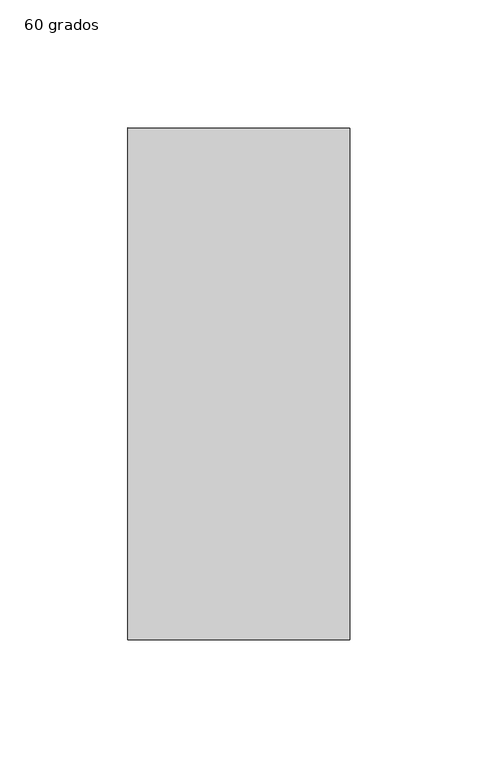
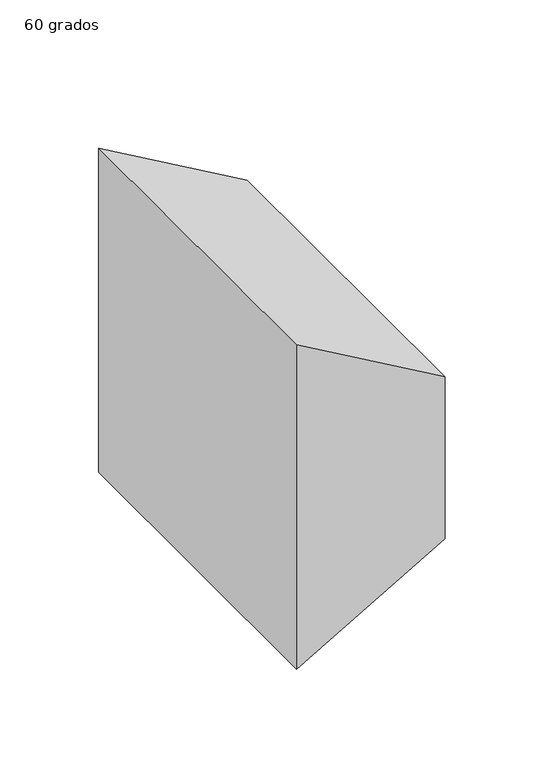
"""IFC4 building model written with IfcOpenShell, lengths in millimetres: duct fitting geometry, M_Transición rectangular - Ángulo : 60 grados."""

from ifc_helpers import new_model, si_unit, frame, origin, place, context, project, spatial, polyline, outline, extrude, source, transform, mapped, element, save


def duct_fitting_60_grados_5e89b3a4(model_context):
    return source(origin(), model_context, "Body", "SweptSolid", [
        extrude(outline(polyline([(100.0, 0.0), (-100.0, 0.0), (-50.0, 86.6025404), (50.0, 86.6025404), (100.0, 0.0)])), frame((0.0, -100.0, 0.0), z_axis=(0.0, 1.0, 0.0), x_axis=(0.0, 0.0, 1.0)), (0.0, 0.0, 1.0), 200.0),
    ])


if __name__ == "__main__":
    model = new_model("IFC4")
    model_context = context("Model", 3, world=origin())
    ifc_project = project(units=[si_unit("LENGTHUNIT", "METRE", prefix="MILLI")], contexts=[model_context])
    site = spatial("IfcSite", under=ifc_project)
    building = spatial("IfcBuilding", under=site)
    placement = place(None, origin())
    duct_fitting_60_grados_shape = duct_fitting_60_grados_5e89b3a4(model_context)
    element("IfcDuctFitting", 1, ObjectType="M_Transición rectangular - Ángulo : 60 grados", at=placement, inside=building, context=model_context, shape_type="MappedRepresentation", body=[
        mapped(duct_fitting_60_grados_shape, transform((0.0, 0.0, 0.0), x_axis=(1.0, 0.0, 0.0), y_axis=(0.0, 1.0, 0.0), z_axis=(0.0, 0.0, 1.0))),
    ])
    save(model, "model.ifc")
